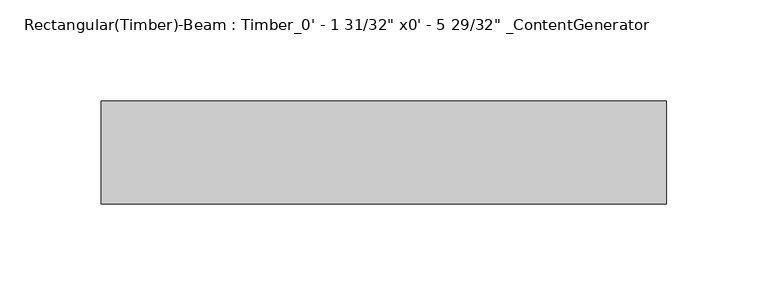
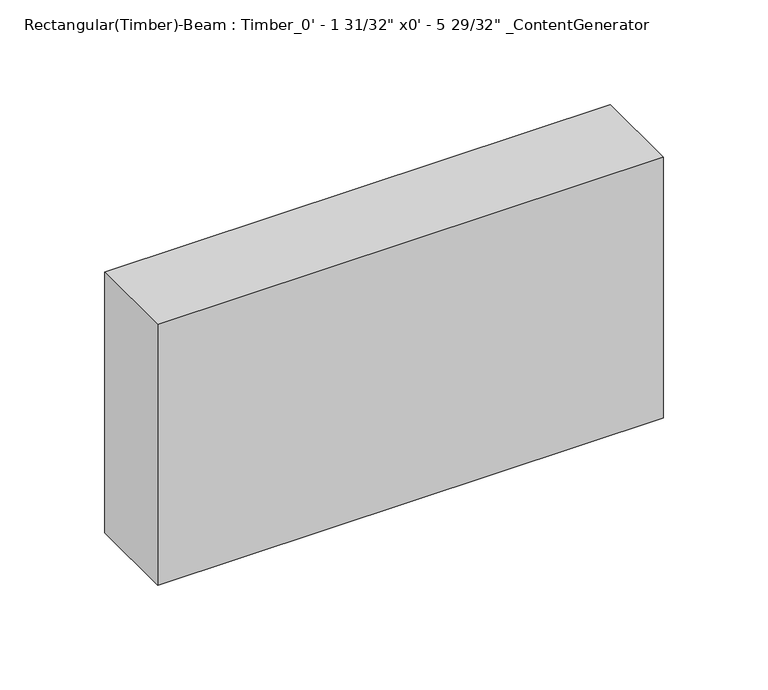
"""IFC4 building model written with IfcOpenShell, lengths in millimetres: beam geometry."""

from ifc_helpers import new_model, si_unit, frame, origin, place, context, project, spatial, polyline, outline, extrude, source, transform, mapped, element, save


def beam_bc29a762(model_context):
    return source(origin(), model_context, "Body", "SweptSolid", [
        extrude(outline(polyline([(139.705, 25.4), (139.705, -25.4), (-139.705, -25.4), (-139.705, 25.4), (139.705, 25.4)])), frame((0.0, 0.0, -76.2), z_axis=(0.0, 0.0, 1.0), x_axis=(1.0, 0.0, 0.0)), (0.0, 0.0, 1.0), 152.4),
    ])


if __name__ == "__main__":
    model = new_model("IFC4")
    model_context = context("Model", 3, world=origin())
    ifc_project = project(units=[si_unit("LENGTHUNIT", "METRE", prefix="MILLI")], contexts=[model_context])
    site = spatial("IfcSite", under=ifc_project)
    building = spatial("IfcBuilding", under=site)
    placement = place(None, origin())
    beam_shape = beam_bc29a762(model_context)
    element("IfcBeam", 1, ObjectType="Rectangular(Timber)-Beam : Timber_0' - 1 31/32\" x0' - 5 29/32\" _ContentGenerator", at=placement, inside=building, context=model_context, shape_type="MappedRepresentation", body=[
        mapped(beam_shape, transform((0.0, 0.0, 0.0), x_axis=(1.0, 0.0, 0.0), y_axis=(0.0, 1.0, 0.0), z_axis=(0.0, 0.0, 1.0))),
    ])
    save(model, "model.ifc")
